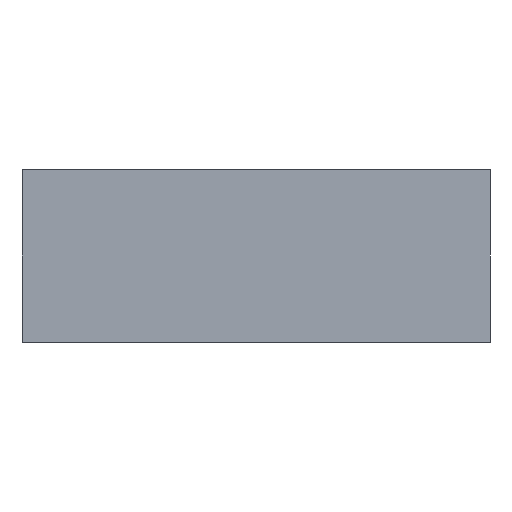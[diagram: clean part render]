
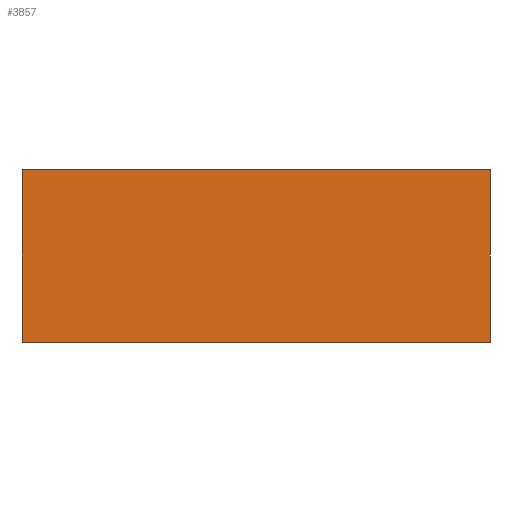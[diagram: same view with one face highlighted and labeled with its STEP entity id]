
A CAD part, front view. The second image highlights one B-rep face of the part: STEP entity #3857.
In plain terms, the highlighted planar face has unit normal (0, -1, 0).
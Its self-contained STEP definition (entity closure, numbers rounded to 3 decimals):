
#1963 = CARTESIAN_POINT ( 'NONE',  ( -18.5, -26.9, 13.6 ) ) ;
#1964 = DIRECTION ( 'NONE',  ( 1., 0., 0. ) ) ;
#1965 = VECTOR ( 'NONE', #1964, 1000. ) ;
#1966 = CARTESIAN_POINT ( 'NONE',  ( -18.5, -26.9, 13.6 ) ) ;
#1967 = LINE ( 'NONE', #1966, #1965 ) ;
#2167 = FACE_OUTER_BOUND ( 'NONE', #3914, .T. ) ;
#2204 = DIRECTION ( 'NONE',  ( 0., 0., 1. ) ) ;
#2205 = DIRECTION ( 'NONE',  ( 0., 1., 0. ) ) ;
#2206 = CARTESIAN_POINT ( 'NONE',  ( -18.5, -26.9, 13.6 ) ) ;
#2207 = AXIS2_PLACEMENT_3D ( 'NONE', #2206, #2205, #2204 ) ;
#2208 = PLANE ( 'NONE',  #2207 ) ;
#2287 = CARTESIAN_POINT ( 'NONE',  ( 18.5, -26.9, 13.6 ) ) ;
#2367 = DIRECTION ( 'NONE',  ( 0., 0., -1. ) ) ;
#2368 = VECTOR ( 'NONE', #2367, 1000. ) ;
#2369 = CARTESIAN_POINT ( 'NONE',  ( -18.5, -26.9, 13.6 ) ) ;
#2370 = LINE ( 'NONE', #2369, #2368 ) ;
#2443 = CARTESIAN_POINT ( 'NONE',  ( -18.5, -26.9, 0. ) ) ;
#2538 = DIRECTION ( 'NONE',  ( 1., 0., 0. ) ) ;
#2539 = VECTOR ( 'NONE', #2538, 1000. ) ;
#2540 = CARTESIAN_POINT ( 'NONE',  ( -18.5, -26.9, 0. ) ) ;
#2541 = LINE ( 'NONE', #2540, #2539 ) ;
#2831 = DIRECTION ( 'NONE',  ( 0., 0., -1. ) ) ;
#2832 = VECTOR ( 'NONE', #2831, 1000. ) ;
#2833 = CARTESIAN_POINT ( 'NONE',  ( 18.5, -26.9, 13.6 ) ) ;
#2834 = LINE ( 'NONE', #2833, #2832 ) ;
#3499 = CARTESIAN_POINT ( 'NONE',  ( 18.5, -26.9, 0. ) ) ;
#3791 = ORIENTED_EDGE ( 'NONE', *, *, #3919, .T. ) ;
#3792 = ORIENTED_EDGE ( 'NONE', *, *, #3793, .F. ) ;
#3793 = EDGE_CURVE ( 'NONE', #3799, #3882, #1967, .T. ) ;
#3799 = VERTEX_POINT ( 'NONE', #1963 ) ;
#3807 = ORIENTED_EDGE ( 'NONE', *, *, #4084, .F. ) ;
#3813 = ORIENTED_EDGE ( 'NONE', *, *, #3978, .T. ) ;
#3857 = ADVANCED_FACE ( 'NONE', ( #2167 ), #2208, .F. ) ;
#3882 = VERTEX_POINT ( 'NONE', #2287 ) ;
#3914 = EDGE_LOOP ( 'NONE', ( #3813, #3807, #3792, #3791 ) ) ;
#3919 = EDGE_CURVE ( 'NONE', #3799, #3957, #2370, .T. ) ;
#3957 = VERTEX_POINT ( 'NONE', #2443 ) ;
#3978 = EDGE_CURVE ( 'NONE', #3957, #4322, #2541, .T. ) ;
#4084 = EDGE_CURVE ( 'NONE', #3882, #4322, #2834, .T. ) ;
#4322 = VERTEX_POINT ( 'NONE', #3499 ) ;
